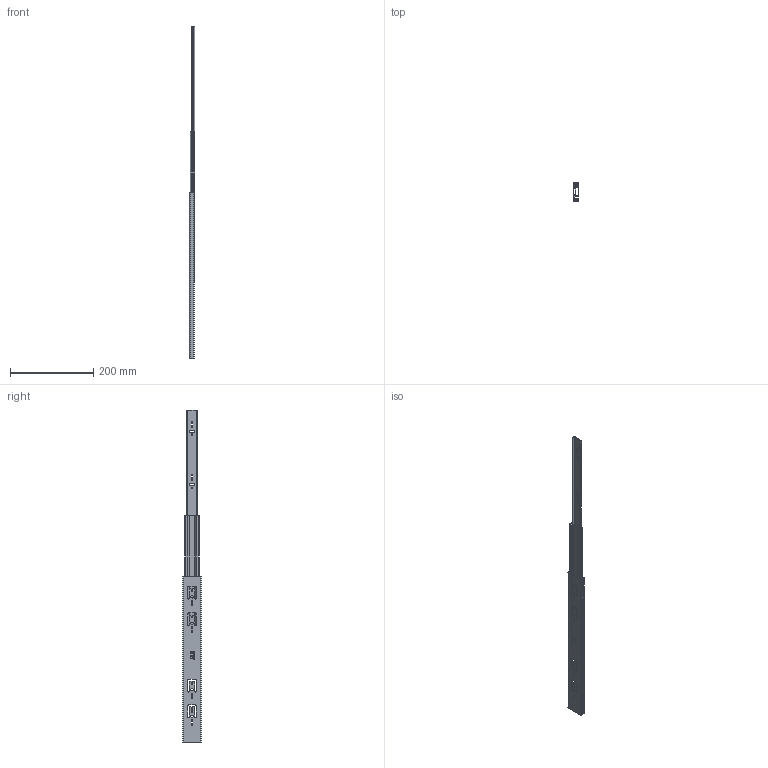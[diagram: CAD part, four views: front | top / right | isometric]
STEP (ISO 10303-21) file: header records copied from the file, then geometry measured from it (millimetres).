
FILE_DESCRIPTION (( 'STEP AP214' ), '1' );
FILE_NAME ('DS400STD-OPEN.STEP', '2018-11-01T14:51:08', ( '' ), ( '' ), 'SwSTEP 2.0', 'SolidWorks 2017', '' );
FILE_SCHEMA (( 'AUTOMOTIVE_DESIGN' ));
Length unit declared in the file: millimetre
Products named in the file (4): DS400STD-OPEN; DS-STD-1_400; DS-STD-3_400; DS-STD-2_400
Assembly tree (3 placements, depth 2):
  DS400STD-OPEN
    DS-STD-3_400
    DS-STD-2_400
    DS-STD-1_400
Bounding box: 12.71 x 45.5 x 800 mm (x, y, z)
Volume: 73511.2 mm3; surface area: 121811.5 mm2
Topology: 3 solids, 3 shells, 823 faces, 2253 edges, 1502 vertices
Faces by surface type: plane 479, bspline 237, cylinder 107
Entity records: 27745 total; most frequent: CARTESIAN_POINT 8013, ORIENTED_EDGE 4506, DIRECTION 3177, EDGE_CURVE 2253, LINE 1565, VECTOR 1565, VERTEX_POINT 1502, EDGE_LOOP 939
